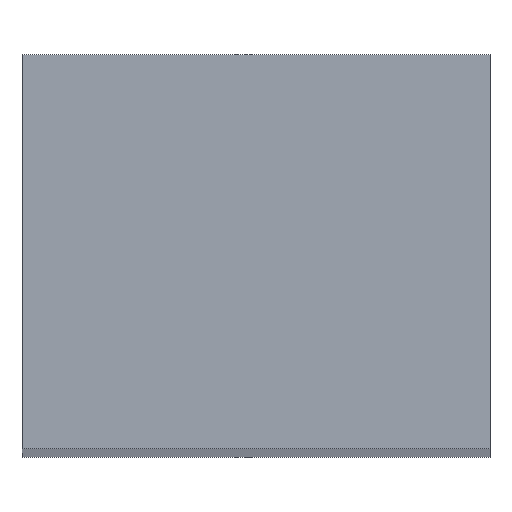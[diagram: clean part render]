
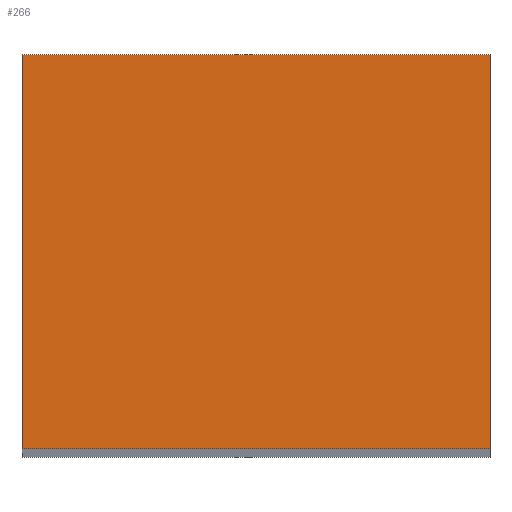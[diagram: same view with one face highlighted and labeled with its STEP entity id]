
A CAD part, top view. The second image highlights one B-rep face of the part: STEP entity #266.
In plain terms, the highlighted planar face has unit normal (0, 0, 1).
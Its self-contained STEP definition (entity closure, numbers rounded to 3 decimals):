
#7 = DIRECTION ( 'NONE',  ( 1., 0., 0. ) ) ;
#14 = CARTESIAN_POINT ( 'NONE',  ( -9.5, 8., 200. ) ) ;
#18 = CARTESIAN_POINT ( 'NONE',  ( 0., 0., 200. ) ) ;
#24 = ORIENTED_EDGE ( 'NONE', *, *, #207, .T. ) ;
#36 = CARTESIAN_POINT ( 'NONE',  ( 9.5, -8., 200. ) ) ;
#39 = VECTOR ( 'NONE', #7, 1000. ) ;
#60 = DIRECTION ( 'NONE',  ( 0., -1., 0. ) ) ;
#64 = EDGE_CURVE ( 'NONE', #163, #137, #77, .T. ) ;
#77 = LINE ( 'NONE', #215, #39 ) ;
#79 = CARTESIAN_POINT ( 'NONE',  ( -9.5, -8., 200. ) ) ;
#103 = VECTOR ( 'NONE', #261, 1000. ) ;
#119 = DIRECTION ( 'NONE',  ( 1., 0., 0. ) ) ;
#128 = ORIENTED_EDGE ( 'NONE', *, *, #64, .T. ) ;
#137 = VERTEX_POINT ( 'NONE', #36 ) ;
#139 = EDGE_LOOP ( 'NONE', ( #24, #332, #253, #128 ) ) ;
#146 = EDGE_CURVE ( 'NONE', #256, #394, #278, .T. ) ;
#161 = DIRECTION ( 'NONE',  ( 0., 0., 1. ) ) ;
#163 = VERTEX_POINT ( 'NONE', #79 ) ;
#171 = CARTESIAN_POINT ( 'NONE',  ( -9.5, 8., 200. ) ) ;
#193 = PLANE ( 'NONE',  #264 ) ;
#207 = EDGE_CURVE ( 'NONE', #137, #256, #262, .T. ) ;
#215 = CARTESIAN_POINT ( 'NONE',  ( -9.5, -8., 200. ) ) ;
#224 = CARTESIAN_POINT ( 'NONE',  ( 9.5, 8., 200. ) ) ;
#232 = VECTOR ( 'NONE', #60, 1000. ) ;
#236 = VECTOR ( 'NONE', #330, 1000. ) ;
#252 = FACE_OUTER_BOUND ( 'NONE', #139, .T. ) ;
#253 = ORIENTED_EDGE ( 'NONE', *, *, #336, .T. ) ;
#256 = VERTEX_POINT ( 'NONE', #224 ) ;
#261 = DIRECTION ( 'NONE',  ( 0., 1., 0. ) ) ;
#262 = LINE ( 'NONE', #391, #103 ) ;
#264 = AXIS2_PLACEMENT_3D ( 'NONE', #18, #161, #119 ) ;
#266 = ADVANCED_FACE ( 'NONE', ( #252 ), #193, .T. ) ;
#278 = LINE ( 'NONE', #14, #236 ) ;
#330 = DIRECTION ( 'NONE',  ( -1., 0., 0. ) ) ;
#332 = ORIENTED_EDGE ( 'NONE', *, *, #146, .T. ) ;
#334 = CARTESIAN_POINT ( 'NONE',  ( -9.5, 8., 200. ) ) ;
#336 = EDGE_CURVE ( 'NONE', #394, #163, #340, .T. ) ;
#340 = LINE ( 'NONE', #171, #232 ) ;
#391 = CARTESIAN_POINT ( 'NONE',  ( 9.5, 8., 200. ) ) ;
#394 = VERTEX_POINT ( 'NONE', #334 ) ;
